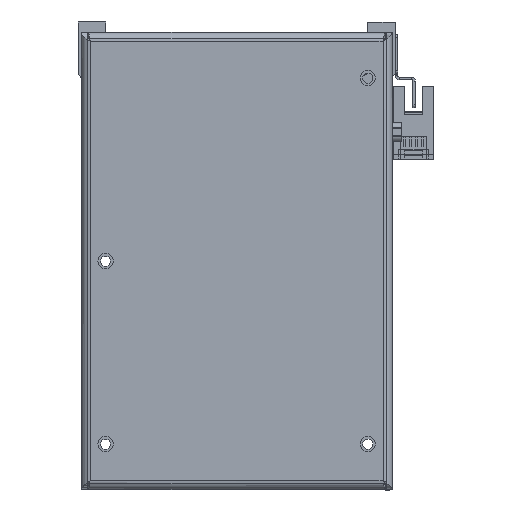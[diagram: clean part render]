
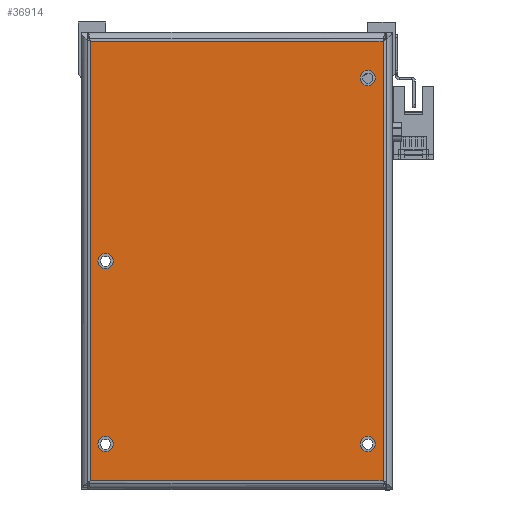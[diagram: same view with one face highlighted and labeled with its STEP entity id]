
A CAD part, top view. The second image highlights one B-rep face of the part: STEP entity #36914.
In plain terms, the highlighted planar face has unit normal (0, 0, 1) as drawn and (0, 0, -1) by its records, which use the part's own axes.
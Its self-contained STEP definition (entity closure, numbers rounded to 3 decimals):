
#610 = ORIENTED_EDGE ( 'NONE', *, *, #3271, .T. ) ;
#1678 = DIRECTION ( 'NONE',  ( 0., 0., -1. ) ) ;
#2060 = ORIENTED_EDGE ( 'NONE', *, *, #26728, .F. ) ;
#2543 = VERTEX_POINT ( 'NONE', #14431 ) ;
#2598 = DIRECTION ( 'NONE',  ( 0., -1., 0. ) ) ;
#2678 = DIRECTION ( 'NONE',  ( -1., 0., 0. ) ) ;
#3030 = ORIENTED_EDGE ( 'NONE', *, *, #7660, .F. ) ;
#3271 = EDGE_CURVE ( 'NONE', #20389, #23705, #30586, .T. ) ;
#3399 = VECTOR ( 'NONE', #18138, 1000. ) ;
#3481 = EDGE_CURVE ( 'NONE', #39082, #34570, #8059, .T. ) ;
#3978 = CARTESIAN_POINT ( 'NONE',  ( 1647.905, 214.894, -52. ) ) ;
#4813 = CARTESIAN_POINT ( 'NONE',  ( 1561.905, 154.894, -52. ) ) ;
#4885 = EDGE_CURVE ( 'NONE', #31402, #2543, #36227, .T. ) ;
#5498 = CARTESIAN_POINT ( 'NONE',  ( 1554.405, 286.894, -52. ) ) ;
#5674 = FACE_BOUND ( 'NONE', #24802, .T. ) ;
#6990 = VERTEX_POINT ( 'NONE', #3978 ) ;
#7514 = CARTESIAN_POINT ( 'NONE',  ( 1650.405, 142.894, -52. ) ) ;
#7660 = EDGE_CURVE ( 'NONE', #11476, #20980, #33307, .T. ) ;
#7731 = DIRECTION ( 'NONE',  ( 0., 0., -1. ) ) ;
#7842 = CARTESIAN_POINT ( 'NONE',  ( 1554.405, 142.247, -52. ) ) ;
#8059 = LINE ( 'NONE', #28407, #15635 ) ;
#8166 = ORIENTED_EDGE ( 'NONE', *, *, #25983, .F. ) ;
#8897 = DIRECTION ( 'NONE',  ( 0., 0., -1. ) ) ;
#8996 = CARTESIAN_POINT ( 'NONE',  ( 1554.405, 142.894, -52. ) ) ;
#10086 = EDGE_CURVE ( 'NONE', #2543, #31402, #42060, .T. ) ;
#10579 = DIRECTION ( 'NONE',  ( -1., 0., 0. ) ) ;
#10913 = EDGE_CURVE ( 'NONE', #20980, #11476, #29175, .T. ) ;
#11476 = VERTEX_POINT ( 'NONE', #32360 ) ;
#12406 = DIRECTION ( 'NONE',  ( -1., 0., 0. ) ) ;
#12698 = EDGE_LOOP ( 'NONE', ( #14873, #33993, #36056, #610 ) ) ;
#13775 = DIRECTION ( 'NONE',  ( -1., 0., 0. ) ) ;
#14107 = EDGE_LOOP ( 'NONE', ( #14239, #3030 ) ) ;
#14239 = ORIENTED_EDGE ( 'NONE', *, *, #10913, .F. ) ;
#14431 = CARTESIAN_POINT ( 'NONE',  ( 1561.905, 274.894, -52. ) ) ;
#14873 = ORIENTED_EDGE ( 'NONE', *, *, #18081, .T. ) ;
#15116 = DIRECTION ( 'NONE',  ( -1., 0., 0. ) ) ;
#15635 = VECTOR ( 'NONE', #25184, 1000. ) ;
#16050 = CARTESIAN_POINT ( 'NONE',  ( 1559.405, 274.894, -52. ) ) ;
#16169 = DIRECTION ( 'NONE',  ( -1., 0., 0. ) ) ;
#16689 = EDGE_CURVE ( 'NONE', #17322, #26832, #26810, .T. ) ;
#16844 = CARTESIAN_POINT ( 'NONE',  ( 1556.905, 154.894, -52. ) ) ;
#17322 = VERTEX_POINT ( 'NONE', #4813 ) ;
#17412 = CARTESIAN_POINT ( 'NONE',  ( 1642.905, 214.894, -52. ) ) ;
#17745 = ORIENTED_EDGE ( 'NONE', *, *, #16689, .F. ) ;
#18081 = EDGE_CURVE ( 'NONE', #23705, #39082, #35159, .T. ) ;
#18138 = DIRECTION ( 'NONE',  ( 0., 1., 0. ) ) ;
#19013 = DIRECTION ( 'NONE',  ( 0., 0., -1. ) ) ;
#19208 = FACE_OUTER_BOUND ( 'NONE', #12698, .T. ) ;
#19414 = FACE_BOUND ( 'NONE', #38048, .T. ) ;
#19787 = CARTESIAN_POINT ( 'NONE',  ( 1645.405, 214.894, -52. ) ) ;
#19922 = VECTOR ( 'NONE', #2598, 1000. ) ;
#20389 = VERTEX_POINT ( 'NONE', #5498 ) ;
#20394 = CARTESIAN_POINT ( 'NONE',  ( 1645.405, 154.894, -52. ) ) ;
#20980 = VERTEX_POINT ( 'NONE', #39551 ) ;
#21509 = DIRECTION ( 'NONE',  ( 0., 0., -1. ) ) ;
#23021 = EDGE_CURVE ( 'NONE', #6990, #30445, #38689, .T. ) ;
#23705 = VERTEX_POINT ( 'NONE', #27091 ) ;
#24761 = DIRECTION ( 'NONE',  ( -1., 0., 0. ) ) ;
#24802 = EDGE_LOOP ( 'NONE', ( #8166, #31776 ) ) ;
#24814 = CARTESIAN_POINT ( 'NONE',  ( 1645.405, 214.894, -52. ) ) ;
#24875 = CARTESIAN_POINT ( 'NONE',  ( 1650.405, 287.54, -52. ) ) ;
#25179 = CARTESIAN_POINT ( 'NONE',  ( 1602.405, 214.894, -52. ) ) ;
#25184 = DIRECTION ( 'NONE',  ( -1., 0., 0. ) ) ;
#25600 = PLANE ( 'NONE',  #27642 ) ;
#25983 = EDGE_CURVE ( 'NONE', #30445, #6990, #32690, .T. ) ;
#26432 = DIRECTION ( 'NONE',  ( 0., 0., -1. ) ) ;
#26728 = EDGE_CURVE ( 'NONE', #26832, #17322, #36835, .T. ) ;
#26810 = CIRCLE ( 'NONE', #34349, 2.5 ) ;
#26832 = VERTEX_POINT ( 'NONE', #16844 ) ;
#27091 = CARTESIAN_POINT ( 'NONE',  ( 1650.405, 286.894, -52. ) ) ;
#27129 = CARTESIAN_POINT ( 'NONE',  ( 1553.759, 286.894, -52. ) ) ;
#27283 = AXIS2_PLACEMENT_3D ( 'NONE', #19787, #39060, #16169 ) ;
#27642 = AXIS2_PLACEMENT_3D ( 'NONE', #25179, #8897, #2678 ) ;
#28407 = CARTESIAN_POINT ( 'NONE',  ( 1651.052, 142.894, -52. ) ) ;
#28417 = CARTESIAN_POINT ( 'NONE',  ( 1559.405, 154.894, -52. ) ) ;
#28597 = VECTOR ( 'NONE', #36349, 1000. ) ;
#28846 = EDGE_LOOP ( 'NONE', ( #2060, #17745 ) ) ;
#29175 = CIRCLE ( 'NONE', #33947, 2.5 ) ;
#29820 = AXIS2_PLACEMENT_3D ( 'NONE', #24814, #31501, #38121 ) ;
#30445 = VERTEX_POINT ( 'NONE', #17412 ) ;
#30586 = LINE ( 'NONE', #27129, #28597 ) ;
#30714 = AXIS2_PLACEMENT_3D ( 'NONE', #28417, #19013, #24761 ) ;
#31037 = CARTESIAN_POINT ( 'NONE',  ( 1559.405, 154.894, -52. ) ) ;
#31263 = DIRECTION ( 'NONE',  ( -1., 0., 0. ) ) ;
#31402 = VERTEX_POINT ( 'NONE', #37724 ) ;
#31501 = DIRECTION ( 'NONE',  ( 0., 0., -1. ) ) ;
#31776 = ORIENTED_EDGE ( 'NONE', *, *, #23021, .F. ) ;
#32062 = FACE_BOUND ( 'NONE', #14107, .T. ) ;
#32206 = EDGE_CURVE ( 'NONE', #34570, #20389, #34208, .T. ) ;
#32360 = CARTESIAN_POINT ( 'NONE',  ( 1647.905, 154.894, -52. ) ) ;
#32690 = CIRCLE ( 'NONE', #27283, 2.5 ) ;
#33157 = ORIENTED_EDGE ( 'NONE', *, *, #10086, .F. ) ;
#33307 = CIRCLE ( 'NONE', #36731, 2.5 ) ;
#33947 = AXIS2_PLACEMENT_3D ( 'NONE', #38451, #26432, #10579 ) ;
#33993 = ORIENTED_EDGE ( 'NONE', *, *, #3481, .T. ) ;
#34208 = LINE ( 'NONE', #7842, #3399 ) ;
#34349 = AXIS2_PLACEMENT_3D ( 'NONE', #31037, #1678, #31263 ) ;
#34364 = CARTESIAN_POINT ( 'NONE',  ( 1559.405, 274.894, -52. ) ) ;
#34525 = AXIS2_PLACEMENT_3D ( 'NONE', #16050, #39157, #12406 ) ;
#34570 = VERTEX_POINT ( 'NONE', #8996 ) ;
#35159 = LINE ( 'NONE', #24875, #19922 ) ;
#36056 = ORIENTED_EDGE ( 'NONE', *, *, #32206, .T. ) ;
#36227 = CIRCLE ( 'NONE', #41054, 2.5 ) ;
#36349 = DIRECTION ( 'NONE',  ( 1., 0., 0. ) ) ;
#36731 = AXIS2_PLACEMENT_3D ( 'NONE', #20394, #7731, #13775 ) ;
#36835 = CIRCLE ( 'NONE', #30714, 2.5 ) ;
#36914 = ADVANCED_FACE ( 'NONE', ( #5674, #19414, #32062, #38251, #19208 ), #25600, .T. ) ;
#37724 = CARTESIAN_POINT ( 'NONE',  ( 1556.905, 274.894, -52. ) ) ;
#38048 = EDGE_LOOP ( 'NONE', ( #41034, #33157 ) ) ;
#38121 = DIRECTION ( 'NONE',  ( -1., 0., 0. ) ) ;
#38251 = FACE_BOUND ( 'NONE', #28846, .T. ) ;
#38451 = CARTESIAN_POINT ( 'NONE',  ( 1645.405, 154.894, -52. ) ) ;
#38689 = CIRCLE ( 'NONE', #29820, 2.5 ) ;
#39060 = DIRECTION ( 'NONE',  ( 0., 0., -1. ) ) ;
#39082 = VERTEX_POINT ( 'NONE', #7514 ) ;
#39157 = DIRECTION ( 'NONE',  ( 0., 0., -1. ) ) ;
#39551 = CARTESIAN_POINT ( 'NONE',  ( 1642.905, 154.894, -52. ) ) ;
#41034 = ORIENTED_EDGE ( 'NONE', *, *, #4885, .F. ) ;
#41054 = AXIS2_PLACEMENT_3D ( 'NONE', #34364, #21509, #15116 ) ;
#42060 = CIRCLE ( 'NONE', #34525, 2.5 ) ;
